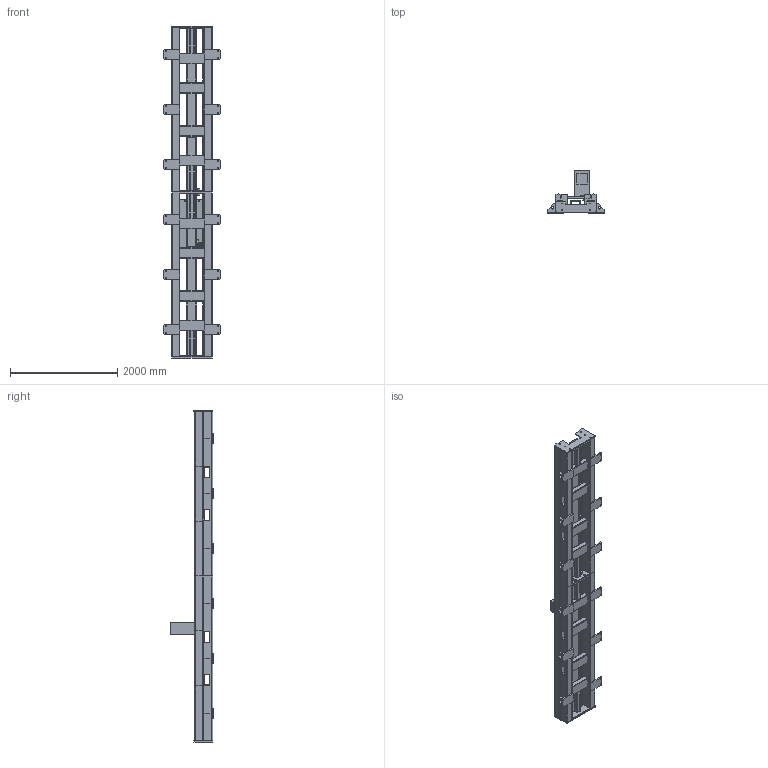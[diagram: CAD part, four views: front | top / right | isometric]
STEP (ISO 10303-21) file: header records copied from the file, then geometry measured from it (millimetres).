
FILE_DESCRIPTION (( 'STEP AP203' ), '1' );
FILE_NAME ('CDST-SW-X-Z-L-005.STEP', '2020-07-06T07:03:24', ( 'Microsoft' ), ( 'Microsoft' ), 'SwSTEP 2.0', 'SolidWorks 2016', '' );
FILE_SCHEMA (( 'CONFIG_CONTROL_DESIGN' ));
Products named in the file (1): CDST-SW-X-Z-L-005
Bounding box: 1050 x 815 x 6190 mm (x, y, z)
Surface area: 31699851 mm2 (no closed solid volume)
Topology: 0 solids, 88 shells, 1878 faces, 8865 edges, 6576 vertices
Faces by surface type: plane 1466, cylinder 406, cone 3, bspline 3
Full cylindrical faces by diameter (mm): 6.5 x1, 6.6 x24, 6.8 x12, 13 x4, 14 x102, 16 x9, 17.5 x8, 22 x12, 36 x2, 42 x2, 50 x18
Entity records: 107319 total; most frequent: CARTESIAN_POINT 36628, DIRECTION 13945, ORIENTED_EDGE 12407, EDGE_CURVE 8635, LINE 6875, VECTOR 6875, VERTEX_POINT 6544, AXIS2_PLACEMENT_3D 3535
